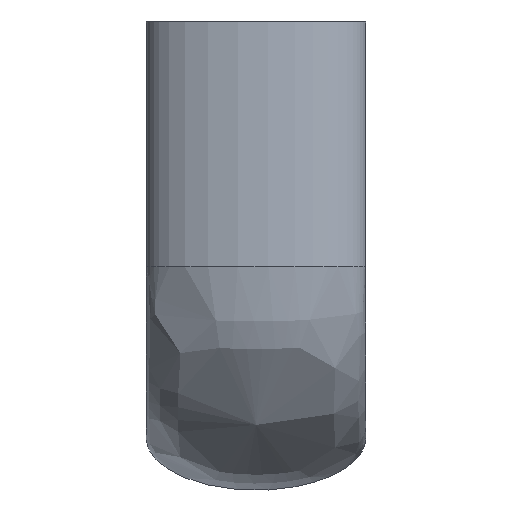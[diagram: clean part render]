
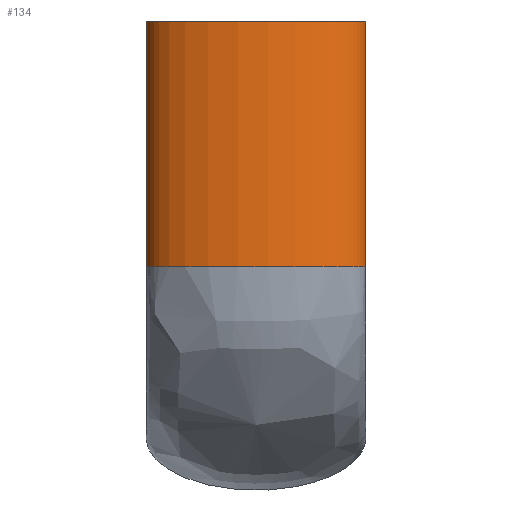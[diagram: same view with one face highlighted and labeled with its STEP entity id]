
A CAD part, left-side view. The second image highlights one B-rep face of the part: STEP entity #134.
In plain terms, the highlighted free-form (B-spline) face has degree [1, 2] with [2, 9] control points.
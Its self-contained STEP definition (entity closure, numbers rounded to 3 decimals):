
#19=B_SPLINE_CURVE_WITH_KNOTS('',1,(#333,#334),.UNSPECIFIED.,.F.,.F.,(2,
2),(-2.226,0.),.UNSPECIFIED.);
#24=ELLIPSE('',#152,7.75,3.75);
#25=ELLIPSE('',#154,7.75,3.75);
#30=(
BOUNDED_SURFACE()
B_SPLINE_SURFACE(1,2,((#314,#315,#316,#317,#318,#319,#320,#321,#322),(#323,
#324,#325,#326,#327,#328,#329,#330,#331)),.UNSPECIFIED.,.F.,.T.,.F.)
B_SPLINE_SURFACE_WITH_KNOTS((2,2),(3,2,2,2,3),(0.,2.226),(-3.142,
-1.571,0.,1.571,3.142),.UNSPECIFIED.)
GEOMETRIC_REPRESENTATION_ITEM()
RATIONAL_B_SPLINE_SURFACE(((1.,0.707,1.,0.707,1.,
0.707,1.,0.707,1.),(1.,0.707,1.,0.707,
1.,0.707,1.,0.707,1.)))
REPRESENTATION_ITEM('')
SURFACE()
);
#45=FACE_OUTER_BOUND('',#58,.T.);
#58=EDGE_LOOP('',(#116,#117,#118,#119));
#77=VERTEX_POINT('',#311);
#78=VERTEX_POINT('',#332);
#90=EDGE_CURVE('',#77,#77,#24,.T.);
#92=EDGE_CURVE('',#77,#78,#19,.T.);
#93=EDGE_CURVE('',#78,#78,#25,.T.);
#116=ORIENTED_EDGE('',*,*,#90,.F.);
#117=ORIENTED_EDGE('',*,*,#92,.T.);
#118=ORIENTED_EDGE('',*,*,#93,.T.);
#119=ORIENTED_EDGE('',*,*,#92,.F.);
#134=ADVANCED_FACE('',(#45),#30,.F.);
#152=AXIS2_PLACEMENT_3D('',#312,#185,#186);
#154=AXIS2_PLACEMENT_3D('',#335,#189,#190);
#185=DIRECTION('center_axis',(0.,0.,-1.));
#186=DIRECTION('ref_axis',(0.,-1.,0.));
#189=DIRECTION('center_axis',(0.,0.,-1.));
#190=DIRECTION('ref_axis',(0.,-1.,0.));
#311=CARTESIAN_POINT('',(0.,7.75,-17.25));
#312=CARTESIAN_POINT('Origin',(0.,0.,-17.25));
#314=CARTESIAN_POINT('Ctrl Pts',(0.,7.75,0.));
#315=CARTESIAN_POINT('Ctrl Pts',(3.75,7.75,0.));
#316=CARTESIAN_POINT('Ctrl Pts',(3.75,0.,0.));
#317=CARTESIAN_POINT('Ctrl Pts',(3.75,-7.75,0.));
#318=CARTESIAN_POINT('Ctrl Pts',(0.,-7.75,0.));
#319=CARTESIAN_POINT('Ctrl Pts',(-3.75,-7.75,0.));
#320=CARTESIAN_POINT('Ctrl Pts',(-3.75,0.,0.));
#321=CARTESIAN_POINT('Ctrl Pts',(-3.75,7.75,0.));
#322=CARTESIAN_POINT('Ctrl Pts',(0.,7.75,0.));
#323=CARTESIAN_POINT('Ctrl Pts',(0.,7.75,-17.25));
#324=CARTESIAN_POINT('Ctrl Pts',(3.75,7.75,-17.25));
#325=CARTESIAN_POINT('Ctrl Pts',(3.75,0.,-17.25));
#326=CARTESIAN_POINT('Ctrl Pts',(3.75,-7.75,-17.25));
#327=CARTESIAN_POINT('Ctrl Pts',(0.,-7.75,-17.25));
#328=CARTESIAN_POINT('Ctrl Pts',(-3.75,-7.75,-17.25));
#329=CARTESIAN_POINT('Ctrl Pts',(-3.75,0.,-17.25));
#330=CARTESIAN_POINT('Ctrl Pts',(-3.75,7.75,-17.25));
#331=CARTESIAN_POINT('Ctrl Pts',(0.,7.75,-17.25));
#332=CARTESIAN_POINT('',(0.,7.75,0.));
#333=CARTESIAN_POINT('Ctrl Pts',(0.,7.75,-17.25));
#334=CARTESIAN_POINT('Ctrl Pts',(0.,7.75,0.));
#335=CARTESIAN_POINT('Origin',(0.,0.,0.));
